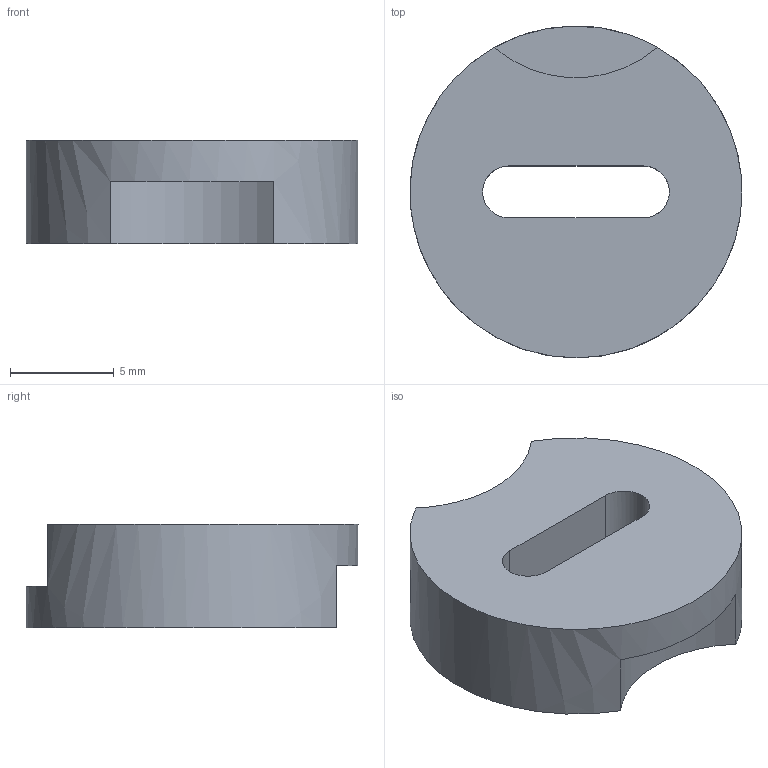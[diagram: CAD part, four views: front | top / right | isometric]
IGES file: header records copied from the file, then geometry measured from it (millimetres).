
Start section: C
Global section: file name: MOO16.igs; native system: By Siemens PLM Incorporated; preprocessor: XPlus GENERIC/IGES 18.0.17; author: Author; organization: Title; date: 20240726.163953; units: millimetre
Bounding box: 15.99 x 16 x 5 mm (x, y, z)
Volume: 820.5 mm3; surface area: 723.4 mm2
Topology: 1 solids, 1 shells, 222 faces, 587 edges, 391 vertices
Faces by surface type: bspline 222
